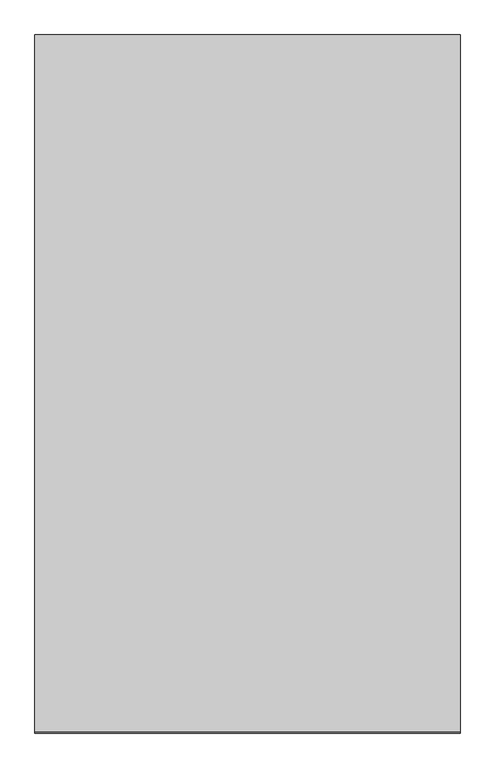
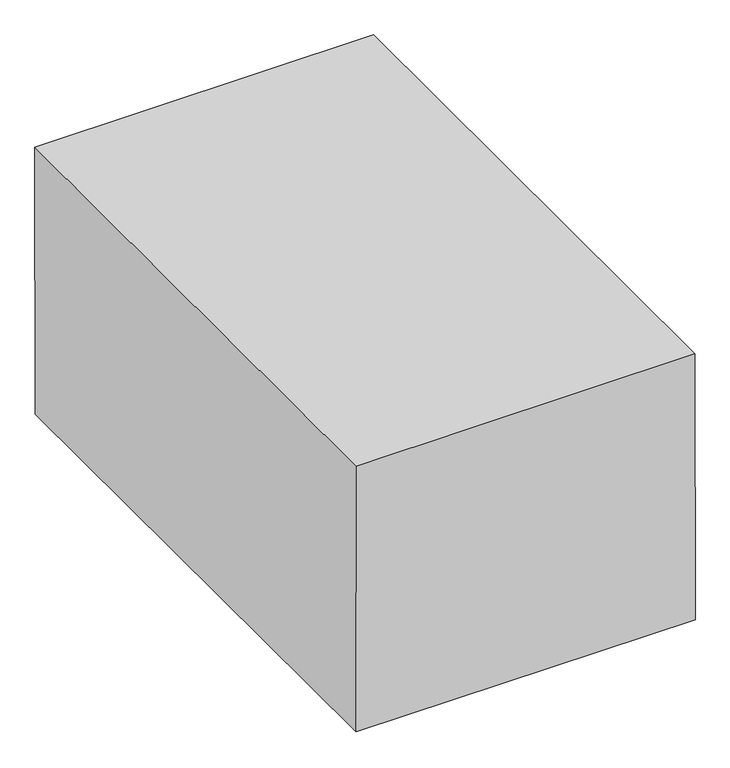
"""IFC4 building model written with IfcOpenShell, lengths in millimetres: proxy geometry, Excavation FamilySP : Excavation FamilySP."""

from ifc_helpers import new_model, si_unit, frame, origin, place, context, project, spatial, polyline, outline, extrude, source, transform, mapped, element, save


def generic_models_5c436288(model_context):
    return source(origin(), model_context, "Body", "SweptSolid", [
        extrude(outline(polyline([(5.5971655, 2532.3793199), (0.0, 0.0), (-4999.9877947, 11.0511719), (-4994.41481, 2532.4901273), (5.5971655, 2532.3793199)])), frame((-1524.0, 0.0, 0.0), z_axis=(1.0, 0.0, 0.0), x_axis=(0.0, 1.0, 0.0)), (0.0, 0.0, 1.0), 3048.0),
    ])


if __name__ == "__main__":
    model = new_model("IFC4")
    model_context = context("Model", 3, world=origin())
    ifc_project = project(units=[si_unit("LENGTHUNIT", "METRE", prefix="MILLI")], contexts=[model_context])
    site = spatial("IfcSite", under=ifc_project)
    building = spatial("IfcBuilding", under=site)
    placement = place(None, origin())
    generic_models_shape = generic_models_5c436288(model_context)
    element("IfcBuildingElementProxy", 1, Name="Excavation FamilySP : Excavation FamilySP", ObjectType="Excavation FamilySP : Excavation FamilySP", at=placement, inside=building, context=model_context, shape_type="MappedRepresentation", body=[
        mapped(generic_models_shape, transform((0.0, 0.0, 0.0), x_axis=(1.0, 0.0, 0.0), y_axis=(0.0, 1.0, 0.0), z_axis=(0.0, 0.0, 1.0))),
    ])
    save(model, "model.ifc")
